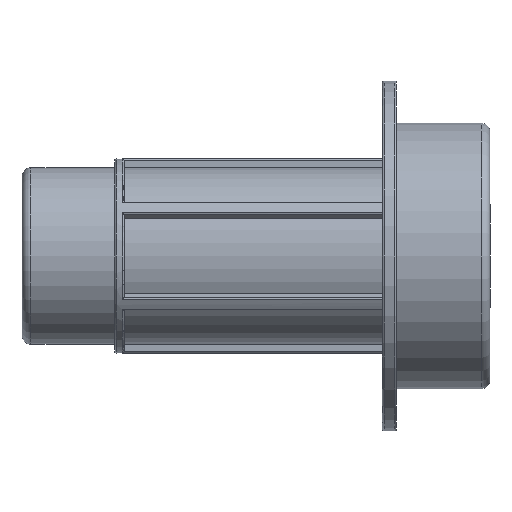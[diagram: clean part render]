
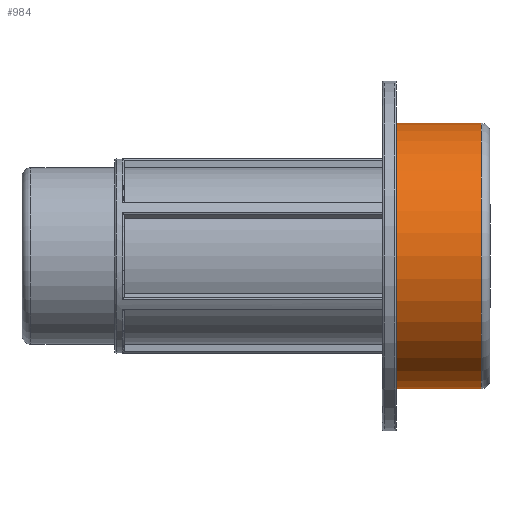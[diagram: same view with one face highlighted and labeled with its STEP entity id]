
A CAD part, front view. The second image highlights one B-rep face of the part: STEP entity #984.
In plain terms, the highlighted cylindrical face has radius 31.5 mm (diameter 63 mm), a full revolution.
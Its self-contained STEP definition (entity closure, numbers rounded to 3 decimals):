
#201=CYLINDRICAL_SURFACE('',#1095,31.5);
#214=FACE_BOUND('',#337,.T.);
#270=FACE_OUTER_BOUND('',#336,.T.);
#336=EDGE_LOOP('',(#907));
#337=EDGE_LOOP('',(#908));
#394=CIRCLE('',#1074,31.5);
#399=CIRCLE('',#1093,31.5);
#492=VERTEX_POINT('',#1831);
#497=VERTEX_POINT('',#1863);
#624=EDGE_CURVE('',#492,#492,#394,.T.);
#637=EDGE_CURVE('',#497,#497,#399,.T.);
#907=ORIENTED_EDGE('',*,*,#624,.T.);
#908=ORIENTED_EDGE('',*,*,#637,.F.);
#984=ADVANCED_FACE('',(#270,#214),#201,.T.);
#1074=AXIS2_PLACEMENT_3D('',#1832,#1322,#1323);
#1093=AXIS2_PLACEMENT_3D('',#1864,#1368,#1369);
#1095=AXIS2_PLACEMENT_3D('',#1867,#1372,#1373);
#1322=DIRECTION('center_axis',(1.,0.,0.));
#1323=DIRECTION('ref_axis',(0.,0.,-1.));
#1368=DIRECTION('center_axis',(1.,0.,0.));
#1369=DIRECTION('ref_axis',(0.,-1.,0.));
#1372=DIRECTION('center_axis',(1.,0.,0.));
#1373=DIRECTION('ref_axis',(0.,1.,0.));
#1831=CARTESIAN_POINT('',(-22.2,31.5,0.));
#1832=CARTESIAN_POINT('Origin',(-22.2,0.,0.));
#1863=CARTESIAN_POINT('',(-2.096,31.5,0.));
#1864=CARTESIAN_POINT('Origin',(-2.095,0.,
0.));
#1867=CARTESIAN_POINT('Origin',(-11.1,0.,0.));
